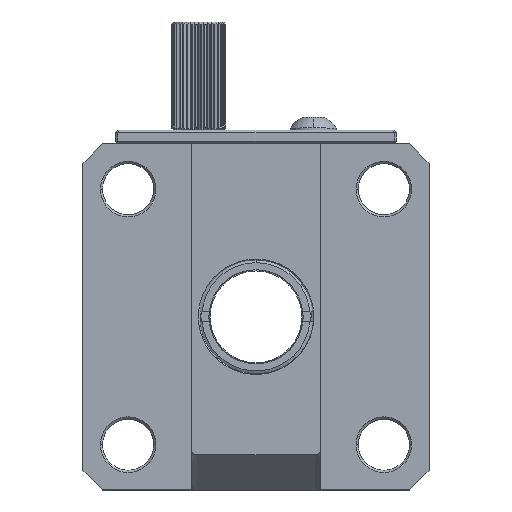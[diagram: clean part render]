
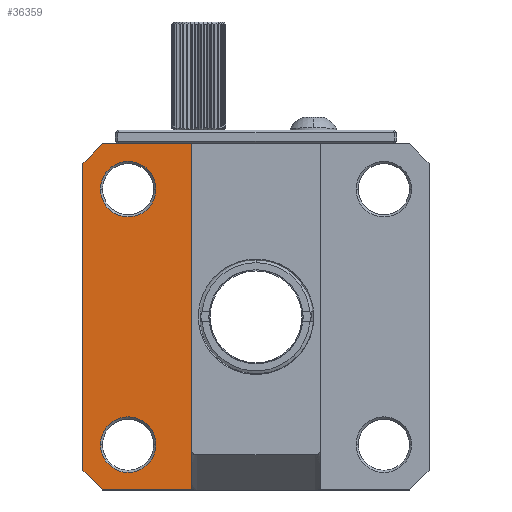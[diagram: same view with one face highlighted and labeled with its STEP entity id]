
A CAD part, top view. The second image highlights one B-rep face of the part: STEP entity #36359.
In plain terms, the highlighted planar face has unit normal (0, 0, 1).
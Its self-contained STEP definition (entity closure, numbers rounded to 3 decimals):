
#22951=DIRECTION('',(0.707,-0.707,0.));
#22952=VECTOR('',#22951,3.233);
#22953=CARTESIAN_POINT('',(-20.32,-18.034,9.525));
#22954=LINE('',#22953,#22952);
#22955=DIRECTION('',(-0.707,-0.707,0.));
#22956=VECTOR('',#22955,3.233);
#22957=CARTESIAN_POINT('',(-18.034,20.32,9.525));
#22958=LINE('',#22957,#22956);
#22959=CARTESIAN_POINT('',(-15.011,-15.011,9.525));
#22960=DIRECTION('',(0.,0.,-1.));
#22961=DIRECTION('',(1.,0.,0.));
#22962=AXIS2_PLACEMENT_3D('',#22959,#22960,#22961);
#22964=CARTESIAN_POINT('',(-15.011,-15.011,9.525));
#22965=DIRECTION('',(0.,0.,-1.));
#22966=DIRECTION('',(-1.,0.,0.));
#22967=AXIS2_PLACEMENT_3D('',#22964,#22965,#22966);
#22969=CARTESIAN_POINT('',(-15.011,14.989,9.525));
#22970=DIRECTION('',(0.,0.,-1.));
#22971=DIRECTION('',(1.,0.,0.));
#22972=AXIS2_PLACEMENT_3D('',#22969,#22970,#22971);
#22974=CARTESIAN_POINT('',(-15.011,14.989,9.525));
#22975=DIRECTION('',(0.,0.,-1.));
#22976=DIRECTION('',(-1.,0.,0.));
#22977=AXIS2_PLACEMENT_3D('',#22974,#22975,#22976);
#22979=DIRECTION('',(0.,-1.,0.));
#22980=VECTOR('',#22979,40.64);
#22981=CARTESIAN_POINT('',(-7.568,20.32,9.525));
#22982=LINE('',#22981,#22980);
#22996=DIRECTION('',(-1.,0.,0.));
#22997=VECTOR('',#22996,10.466);
#22998=CARTESIAN_POINT('',(-7.568,-20.32,9.525));
#22999=LINE('',#22998,#22997);
#23065=DIRECTION('',(1.,0.,0.));
#23066=VECTOR('',#23065,10.466);
#23067=CARTESIAN_POINT('',(-18.034,20.32,9.525));
#23068=LINE('',#23067,#23066);
#23094=DIRECTION('',(0.,1.,0.));
#23095=VECTOR('',#23094,36.068);
#23096=CARTESIAN_POINT('',(-20.32,-18.034,9.525));
#23097=LINE('',#23096,#23095);
#35396=CARTESIAN_POINT('',(-20.32,18.034,9.525));
#35398=VERTEX_POINT('',#35396);
#35413=CARTESIAN_POINT('',(-20.32,-18.034,9.525));
#35414=CARTESIAN_POINT('',(-18.034,-20.32,9.525));
#35415=VERTEX_POINT('',#35413);
#35416=VERTEX_POINT('',#35414);
#35447=CARTESIAN_POINT('',(-18.034,20.32,9.525));
#35449=VERTEX_POINT('',#35447);
#35473=CARTESIAN_POINT('',(-18.275,-15.011,9.525));
#35474=CARTESIAN_POINT('',(-11.748,-15.011,9.525));
#35475=VERTEX_POINT('',#35473);
#35476=VERTEX_POINT('',#35474);
#35483=CARTESIAN_POINT('',(-7.568,-20.32,9.525));
#35484=VERTEX_POINT('',#35483);
#35499=CARTESIAN_POINT('',(-7.568,20.32,9.525));
#35500=VERTEX_POINT('',#35499);
#35521=CARTESIAN_POINT('',(-11.748,14.989,9.525));
#35522=CARTESIAN_POINT('',(-18.275,14.989,9.525));
#35523=VERTEX_POINT('',#35521);
#35524=VERTEX_POINT('',#35522);
#36330=CARTESIAN_POINT('',(20.32,-20.32,9.525));
#36331=DIRECTION('',(0.,0.,1.));
#36332=DIRECTION('',(1.,0.,0.));
#36333=AXIS2_PLACEMENT_3D('',#36330,#36331,#36332);
#36334=PLANE('',#36333);
#36336=ORIENTED_EDGE('',*,*,#36335,.T.);
#36338=ORIENTED_EDGE('',*,*,#36337,.T.);
#36340=ORIENTED_EDGE('',*,*,#36339,.F.);
#36342=ORIENTED_EDGE('',*,*,#36341,.T.);
#36344=ORIENTED_EDGE('',*,*,#36343,.F.);
#36346=ORIENTED_EDGE('',*,*,#36345,.T.);
#36347=EDGE_LOOP('',(#36336,#36338,#36340,#36342,#36344,#36346));
#36348=FACE_OUTER_BOUND('',#36347,.F.);
#36349=ORIENTED_EDGE('',*,*,#36324,.F.);
#36350=ORIENTED_EDGE('',*,*,#36309,.F.);
#36351=EDGE_LOOP('',(#36349,#36350));
#36352=FACE_BOUND('',#36351,.F.);
#36354=ORIENTED_EDGE('',*,*,#36353,.F.);
#36356=ORIENTED_EDGE('',*,*,#36355,.F.);
#36357=EDGE_LOOP('',(#36354,#36356));
#36358=FACE_BOUND('',#36357,.F.);
#36359=ADVANCED_FACE('',(#36348,#36352,#36358),#36334,.T.);
#22963=CIRCLE('',#22962,3.264);
#22968=CIRCLE('',#22967,3.264);
#22973=CIRCLE('',#22972,3.264);
#22978=CIRCLE('',#22977,3.264);
#36309=EDGE_CURVE('',#35475,#35476,#22968,.T.);
#36324=EDGE_CURVE('',#35476,#35475,#22963,.T.);
#36335=EDGE_CURVE('',#35500,#35484,#22982,.T.);
#36337=EDGE_CURVE('',#35484,#35416,#22999,.T.);
#36339=EDGE_CURVE('',#35415,#35416,#22954,.T.);
#36341=EDGE_CURVE('',#35415,#35398,#23097,.T.);
#36343=EDGE_CURVE('',#35449,#35398,#22958,.T.);
#36345=EDGE_CURVE('',#35449,#35500,#23068,.T.);
#36353=EDGE_CURVE('',#35523,#35524,#22973,.T.);
#36355=EDGE_CURVE('',#35524,#35523,#22978,.T.);
